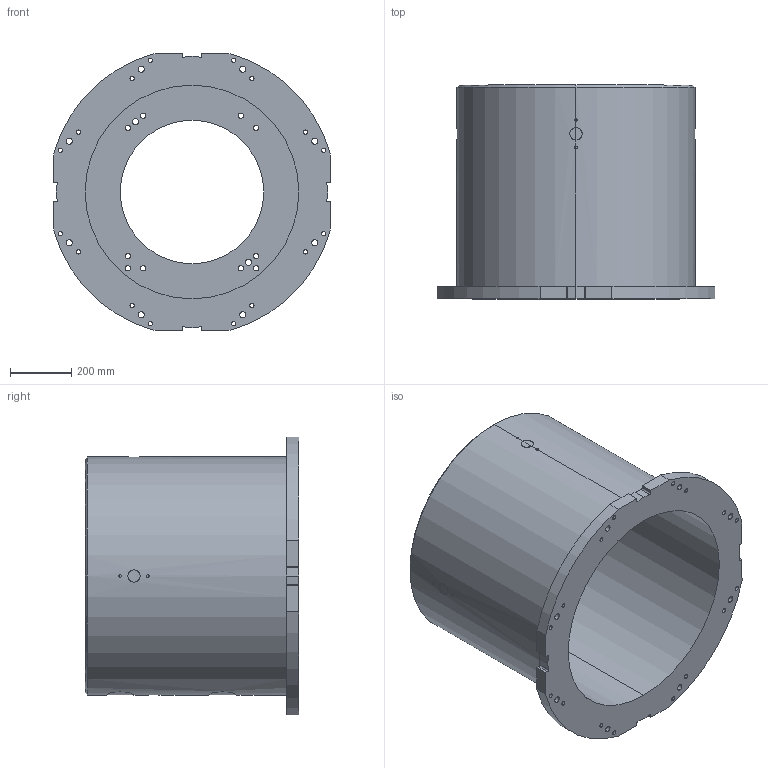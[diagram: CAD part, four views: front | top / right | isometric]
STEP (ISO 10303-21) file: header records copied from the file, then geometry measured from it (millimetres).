
FILE_DESCRIPTION (( 'STEP AP214' ), '1' );
FILE_NAME ('P-700.STEP', '2024-01-24T08:40:41', ( '' ), ( '' ), 'SwSTEP 2.0', 'SolidWorks 2022', '' );
FILE_SCHEMA (( 'AUTOMOTIVE_DESIGN' ));
Length unit declared in the file: millimetre
Products named in the file (1): P-700
Bounding box: 910 x 700 x 910 mm (x, y, z)
Volume: 80647687.6 mm3; surface area: 4315994 mm2
Topology: 1 solids, 1 shells, 203 faces, 565 edges, 376 vertices
Faces by surface type: cylinder 149, plane 28, bspline 24, cone 2
Entity records: 12485 total; most frequent: CARTESIAN_POINT 6354, ORIENTED_EDGE 1130, DIRECTION 969, EDGE_CURVE 565, AXIS2_PLACEMENT_3D 378, VERTEX_POINT 376, EDGE_LOOP 289, LINE 213
